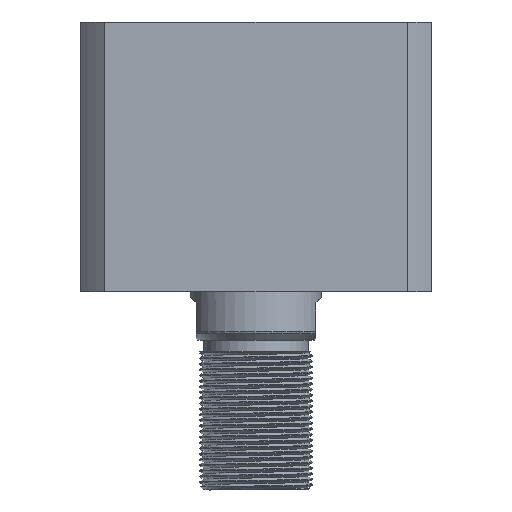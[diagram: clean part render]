
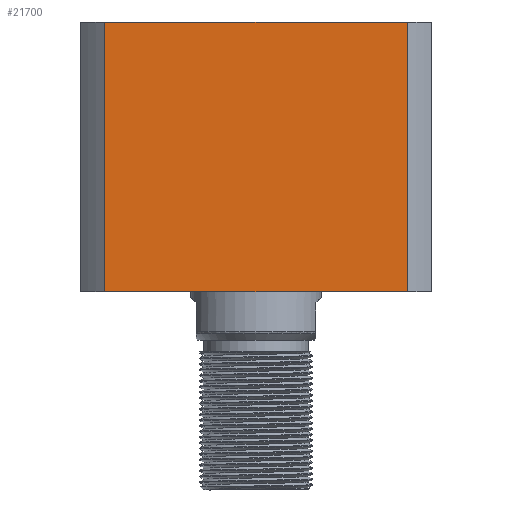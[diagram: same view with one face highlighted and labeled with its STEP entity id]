
A CAD part, front view. The second image highlights one B-rep face of the part: STEP entity #21700.
In plain terms, the highlighted planar face has unit normal (0, -1, 0) as drawn and (0, 1, 0) by its records, which use the part's own axes.
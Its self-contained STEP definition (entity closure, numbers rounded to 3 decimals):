
#1592 = DIRECTION ( 'NONE',  ( 0., -1., 0. ) ) ;
#1598 = EDGE_LOOP ( 'NONE', ( #5146, #19526, #11358, #3287 ) ) ;
#2379 = LINE ( 'NONE', #10477, #15557 ) ;
#3224 = CARTESIAN_POINT ( 'NONE',  ( -40.435, 47., -228. ) ) ;
#3287 = ORIENTED_EDGE ( 'NONE', *, *, #12030, .F. ) ;
#3467 = EDGE_CURVE ( 'NONE', #17868, #14880, #19208, .T. ) ;
#4112 = CARTESIAN_POINT ( 'NONE',  ( -47., 47., 72. ) ) ;
#5146 = ORIENTED_EDGE ( 'NONE', *, *, #3467, .F. ) ;
#5839 = CARTESIAN_POINT ( 'NONE',  ( 40.435, 47., 0. ) ) ;
#6031 = VERTEX_POINT ( 'NONE', #9484 ) ;
#6149 = CARTESIAN_POINT ( 'NONE',  ( -47., 47., 72. ) ) ;
#7329 = EDGE_CURVE ( 'NONE', #6031, #16020, #16986, .T. ) ;
#8253 = CARTESIAN_POINT ( 'NONE',  ( -40.435, 47., 0. ) ) ;
#8904 = AXIS2_PLACEMENT_3D ( 'NONE', #6149, #1592, #13633 ) ;
#9484 = CARTESIAN_POINT ( 'NONE',  ( -40.435, 47., 72. ) ) ;
#9668 = FACE_OUTER_BOUND ( 'NONE', #1598, .T. ) ;
#10002 = VECTOR ( 'NONE', #11510, 1000. ) ;
#10477 = CARTESIAN_POINT ( 'NONE',  ( -47., 47., 0. ) ) ;
#11057 = DIRECTION ( 'NONE',  ( -1., 0., 0. ) ) ;
#11358 = ORIENTED_EDGE ( 'NONE', *, *, #7329, .F. ) ;
#11375 = CARTESIAN_POINT ( 'NONE',  ( 40.435, 47., -228. ) ) ;
#11510 = DIRECTION ( 'NONE',  ( 0., 0., 1. ) ) ;
#11649 = EDGE_CURVE ( 'NONE', #17868, #16020, #2379, .T. ) ;
#11897 = PLANE ( 'NONE',  #8904 ) ;
#12030 = EDGE_CURVE ( 'NONE', #14880, #6031, #18557, .T. ) ;
#12101 = CARTESIAN_POINT ( 'NONE',  ( 40.435, 47., 72. ) ) ;
#13408 = VECTOR ( 'NONE', #11057, 1000. ) ;
#13547 = DIRECTION ( 'NONE',  ( 0., 0., -1. ) ) ;
#13633 = DIRECTION ( 'NONE',  ( 0., 0., -1. ) ) ;
#14880 = VERTEX_POINT ( 'NONE', #12101 ) ;
#15557 = VECTOR ( 'NONE', #20958, 1000. ) ;
#16020 = VERTEX_POINT ( 'NONE', #8253 ) ;
#16986 = LINE ( 'NONE', #3224, #21136 ) ;
#17868 = VERTEX_POINT ( 'NONE', #5839 ) ;
#18557 = LINE ( 'NONE', #4112, #13408 ) ;
#19208 = LINE ( 'NONE', #11375, #10002 ) ;
#19526 = ORIENTED_EDGE ( 'NONE', *, *, #11649, .T. ) ;
#20958 = DIRECTION ( 'NONE',  ( -1., 0., 0. ) ) ;
#21136 = VECTOR ( 'NONE', #13547, 1000. ) ;
#21700 = ADVANCED_FACE ( 'NONE', ( #9668 ), #11897, .F. ) ;
